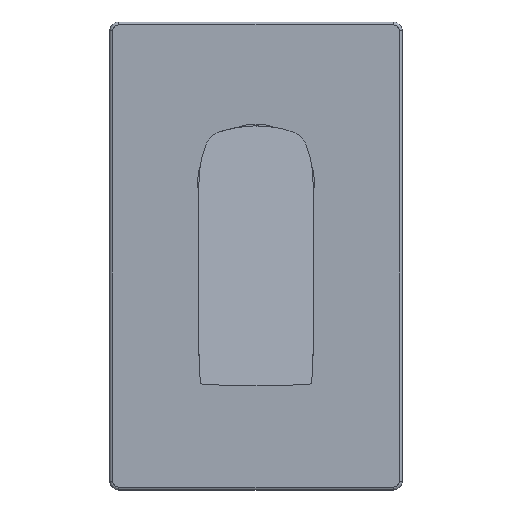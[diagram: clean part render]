
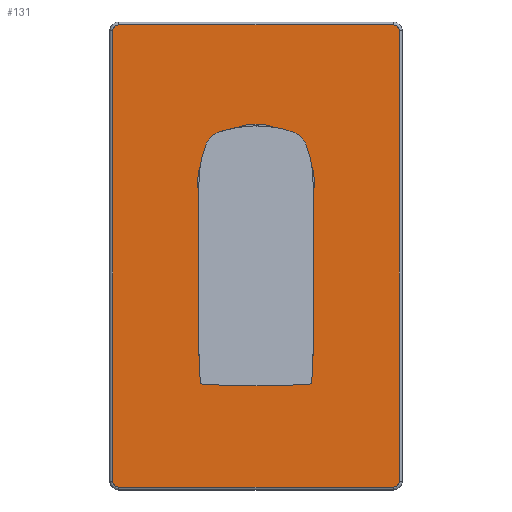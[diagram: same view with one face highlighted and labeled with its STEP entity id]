
A CAD part, top view. The second image highlights one B-rep face of the part: STEP entity #131.
In plain terms, the highlighted planar face has unit normal (0, 0, 1).
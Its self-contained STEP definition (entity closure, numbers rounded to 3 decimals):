
#87 = VERTEX_POINT('',#88);
#88 = CARTESIAN_POINT('',(-20.,0.,
    5.));
#94 = EDGE_CURVE('',#87,#95,#97,.T.);
#95 = VERTEX_POINT('',#96);
#96 = CARTESIAN_POINT('',(20.,0.,
    5.));
#97 = CIRCLE('',#98,20.);
#98 = AXIS2_PLACEMENT_3D('',#99,#100,#101);
#99 = CARTESIAN_POINT('',(0.,0.,
    5.));
#100 = DIRECTION('',(0.,0.,1.));
#101 = DIRECTION('',(1.,0.,-0.));
#119 = EDGE_CURVE('',#95,#87,#120,.T.);
#120 = CIRCLE('',#121,20.);
#121 = AXIS2_PLACEMENT_3D('',#122,#123,#124);
#122 = CARTESIAN_POINT('',(0.,0.,
    5.));
#123 = DIRECTION('',(0.,0.,1.));
#124 = DIRECTION('',(1.,0.,-0.));
#131 = ADVANCED_FACE('',(#132,#202),#206,.T.);
#132 = FACE_BOUND('',#133,.T.);
#133 = EDGE_LOOP('',(#134,#145,#153,#162,#170,#179,#187,#196));
#134 = ORIENTED_EDGE('',*,*,#135,.F.);
#135 = EDGE_CURVE('',#136,#138,#140,.T.);
#136 = VERTEX_POINT('',#137);
#137 = CARTESIAN_POINT('',(-49.,52.,
    5.));
#138 = VERTEX_POINT('',#139);
#139 = CARTESIAN_POINT('',(-47.,54.,
    5.));
#140 = CIRCLE('',#141,2.);
#141 = AXIS2_PLACEMENT_3D('',#142,#143,#144);
#142 = CARTESIAN_POINT('',(-47.,52.,
    5.));
#143 = DIRECTION('',(0.,0.,-1.));
#144 = DIRECTION('',(-1.,0.,-0.));
#145 = ORIENTED_EDGE('',*,*,#146,.T.);
#146 = EDGE_CURVE('',#136,#147,#149,.T.);
#147 = VERTEX_POINT('',#148);
#148 = CARTESIAN_POINT('',(-49.,-102.,5.));
#149 = LINE('',#150,#151);
#150 = CARTESIAN_POINT('',(-49.,-102.,5.));
#151 = VECTOR('',#152,1.);
#152 = DIRECTION('',(0.,-1.,0.));
#153 = ORIENTED_EDGE('',*,*,#154,.F.);
#154 = EDGE_CURVE('',#155,#147,#157,.T.);
#155 = VERTEX_POINT('',#156);
#156 = CARTESIAN_POINT('',(-47.,-104.,5.));
#157 = CIRCLE('',#158,2.);
#158 = AXIS2_PLACEMENT_3D('',#159,#160,#161);
#159 = CARTESIAN_POINT('',(-47.,-102.,5.));
#160 = DIRECTION('',(0.,0.,-1.));
#161 = DIRECTION('',(0.,-1.,0.));
#162 = ORIENTED_EDGE('',*,*,#163,.F.);
#163 = EDGE_CURVE('',#164,#155,#166,.T.);
#164 = VERTEX_POINT('',#165);
#165 = CARTESIAN_POINT('',(47.,-104.,5.));
#166 = LINE('',#167,#168);
#167 = CARTESIAN_POINT('',(47.,-104.,5.));
#168 = VECTOR('',#169,1.);
#169 = DIRECTION('',(-1.,0.,0.));
#170 = ORIENTED_EDGE('',*,*,#171,.F.);
#171 = EDGE_CURVE('',#172,#164,#174,.T.);
#172 = VERTEX_POINT('',#173);
#173 = CARTESIAN_POINT('',(49.,-102.,5.));
#174 = CIRCLE('',#175,2.);
#175 = AXIS2_PLACEMENT_3D('',#176,#177,#178);
#176 = CARTESIAN_POINT('',(47.,-102.,5.));
#177 = DIRECTION('',(0.,0.,-1.));
#178 = DIRECTION('',(1.,0.,0.));
#179 = ORIENTED_EDGE('',*,*,#180,.F.);
#180 = EDGE_CURVE('',#181,#172,#183,.T.);
#181 = VERTEX_POINT('',#182);
#182 = CARTESIAN_POINT('',(49.,52.,
    5.));
#183 = LINE('',#184,#185);
#184 = CARTESIAN_POINT('',(49.,52.,
    5.));
#185 = VECTOR('',#186,1.);
#186 = DIRECTION('',(0.,-1.,0.));
#187 = ORIENTED_EDGE('',*,*,#188,.F.);
#188 = EDGE_CURVE('',#189,#181,#191,.T.);
#189 = VERTEX_POINT('',#190);
#190 = CARTESIAN_POINT('',(47.,54.,
    5.));
#191 = CIRCLE('',#192,2.);
#192 = AXIS2_PLACEMENT_3D('',#193,#194,#195);
#193 = CARTESIAN_POINT('',(47.,52.,
    5.));
#194 = DIRECTION('',(0.,0.,-1.));
#195 = DIRECTION('',(0.,1.,0.));
#196 = ORIENTED_EDGE('',*,*,#197,.F.);
#197 = EDGE_CURVE('',#138,#189,#198,.T.);
#198 = LINE('',#199,#200);
#199 = CARTESIAN_POINT('',(-47.,54.,
    5.));
#200 = VECTOR('',#201,1.);
#201 = DIRECTION('',(1.,0.,0.));
#202 = FACE_BOUND('',#203,.T.);
#203 = EDGE_LOOP('',(#204,#205));
#204 = ORIENTED_EDGE('',*,*,#94,.F.);
#205 = ORIENTED_EDGE('',*,*,#119,.F.);
#206 = PLANE('',#207);
#207 = AXIS2_PLACEMENT_3D('',#208,#209,#210);
#208 = CARTESIAN_POINT('',(47.,-103.,5.));
#209 = DIRECTION('',(0.,0.,1.));
#210 = DIRECTION('',(1.,0.,0.));
